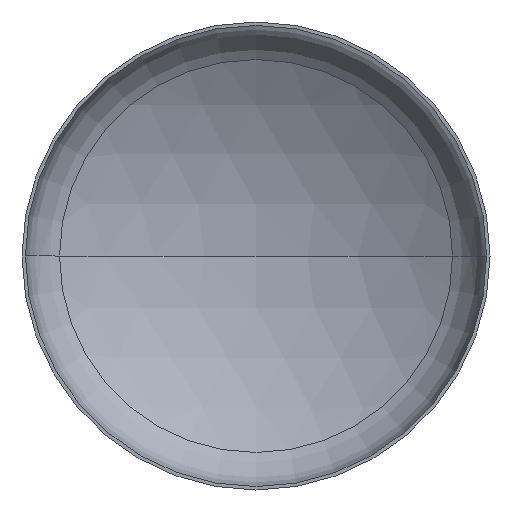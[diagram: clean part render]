
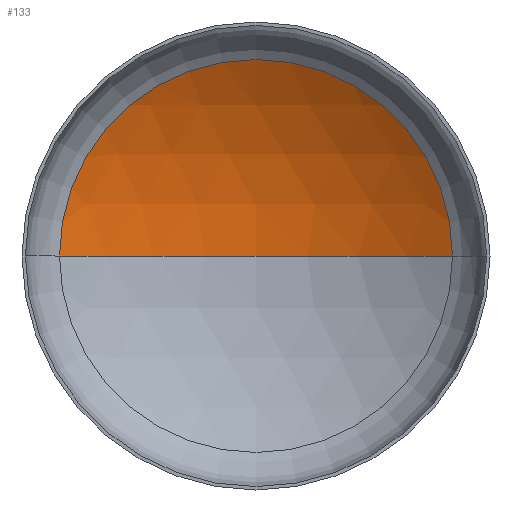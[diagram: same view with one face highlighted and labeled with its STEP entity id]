
A CAD part, front view. The second image highlights one B-rep face of the part: STEP entity #133.
In plain terms, the highlighted spherical face has radius 1200 mm.
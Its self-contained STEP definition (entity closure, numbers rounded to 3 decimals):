
#6 = DIRECTION ( 'NONE',  ( 0., -1., 0. ) ) ;
#17 = DIRECTION ( 'NONE',  ( 0., 0., -1. ) ) ;
#20 = ORIENTED_EDGE ( 'NONE', *, *, #228, .T. ) ;
#28 = CARTESIAN_POINT ( 'NONE',  ( 0., -785.723, 0. ) ) ;
#35 = ORIENTED_EDGE ( 'NONE', *, *, #239, .F. ) ;
#47 = VERTEX_POINT ( 'NONE', #190 ) ;
#79 = EDGE_LOOP ( 'NONE', ( #35, #209, #20 ) ) ;
#82 = FACE_OUTER_BOUND ( 'NONE', #79, .T. ) ;
#103 = CARTESIAN_POINT ( 'NONE',  ( 0., 235.79, 0. ) ) ;
#111 = VERTEX_POINT ( 'NONE', #293 ) ;
#114 = AXIS2_PLACEMENT_3D ( 'NONE', #183, #180, #170 ) ;
#120 = VERTEX_POINT ( 'NONE', #265 ) ;
#133 = ADVANCED_FACE ( 'NONE', ( #82 ), #138, .F. ) ;
#136 = AXIS2_PLACEMENT_3D ( 'NONE', #28, #17, #168 ) ;
#138 = SPHERICAL_SURFACE ( 'NONE', #186, 1200. ) ;
#140 = AXIS2_PLACEMENT_3D ( 'NONE', #103, #6, #187 ) ;
#155 = CIRCLE ( 'NONE', #114, 1200. ) ;
#168 = DIRECTION ( 'NONE',  ( -1., 0., 0. ) ) ;
#170 = DIRECTION ( 'NONE',  ( 1., 0., 0. ) ) ;
#180 = DIRECTION ( 'NONE',  ( 0., 0., 1. ) ) ;
#183 = CARTESIAN_POINT ( 'NONE',  ( 0., -785.723, 0. ) ) ;
#186 = AXIS2_PLACEMENT_3D ( 'NONE', #259, #267, #313 ) ;
#187 = DIRECTION ( 'NONE',  ( 1., 0., 0. ) ) ;
#190 = CARTESIAN_POINT ( 'NONE',  ( 629.691, 235.79, 0. ) ) ;
#209 = ORIENTED_EDGE ( 'NONE', *, *, #234, .T. ) ;
#228 = EDGE_CURVE ( 'NONE', #47, #111, #244, .T. ) ;
#234 = EDGE_CURVE ( 'NONE', #120, #47, #238, .T. ) ;
#238 = CIRCLE ( 'NONE', #136, 1200. ) ;
#239 = EDGE_CURVE ( 'NONE', #120, #111, #155, .T. ) ;
#244 = CIRCLE ( 'NONE', #140, 629.691 ) ;
#259 = CARTESIAN_POINT ( 'NONE',  ( 0., -785.723, 0. ) ) ;
#265 = CARTESIAN_POINT ( 'NONE',  ( 0., 414.277, 0. ) ) ;
#267 = DIRECTION ( 'NONE',  ( 0., 0., -1. ) ) ;
#293 = CARTESIAN_POINT ( 'NONE',  ( -629.691, 235.79, 0. ) ) ;
#313 = DIRECTION ( 'NONE',  ( -1., 0., 0. ) ) ;
